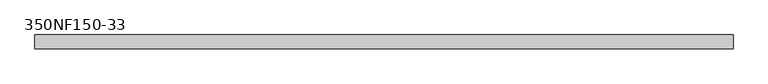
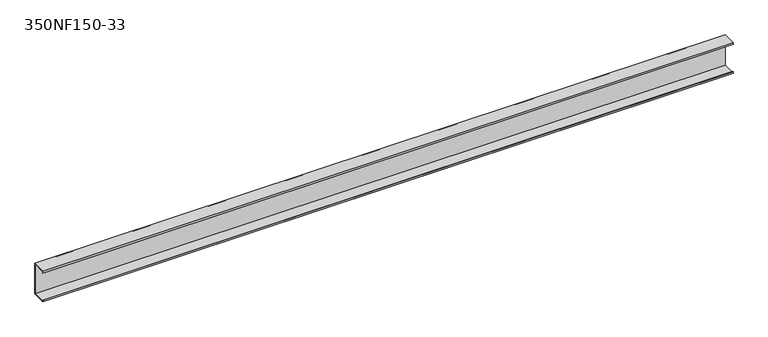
"""IFC4 building model written with IfcOpenShell, lengths in millimetres: beam geometry, BIMSF-SSMA-S : 350NF150-33."""

from ifc_helpers import new_model, si_unit, frame, origin, place, context, project, spatial, polyline, outline, extrude, source, transform, mapped, element, save


def beam_350nf150_33_1fcaa841(model_context):
    return source(origin(), model_context, "Body", "SweptSolid", [
        extrude(outline(polyline([(19.05, 44.45), (19.05, -44.45), (-19.05, -44.45), (-19.05, -39.6748), (-18.1676842, -39.6748), (-18.1676842, -43.5676842), (18.1676842, -43.5676842), (18.1676842, 43.5676842), (-18.1676842, 43.5676842), (-18.1676842, 39.6748), (-19.05, 39.6748), (-19.05, 44.45), (19.05, 44.45)])), frame((-952.5, 0.0, 0.0), z_axis=(1.0, 0.0, 0.0), x_axis=(0.0, 1.0, 0.0)), (0.0, 0.0, 1.0), 1905.0),
    ])


if __name__ == "__main__":
    model = new_model("IFC4")
    model_context = context("Model", 3, world=origin())
    ifc_project = project(units=[si_unit("LENGTHUNIT", "METRE", prefix="MILLI")], contexts=[model_context])
    site = spatial("IfcSite", under=ifc_project)
    building = spatial("IfcBuilding", under=site)
    placement = place(None, origin())
    beam_350nf150_33_shape = beam_350nf150_33_1fcaa841(model_context)
    element("IfcBeam", 1, ObjectType="BIMSF-SSMA-S : 350NF150-33", at=placement, inside=building, context=model_context, shape_type="MappedRepresentation", body=[
        mapped(beam_350nf150_33_shape, transform((0.0, 0.0, 0.0), x_axis=(1.0, 0.0, 0.0), y_axis=(0.0, 1.0, 0.0), z_axis=(0.0, 0.0, 1.0))),
    ])
    save(model, "model.ifc")
